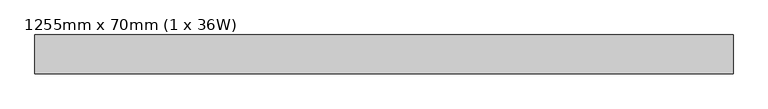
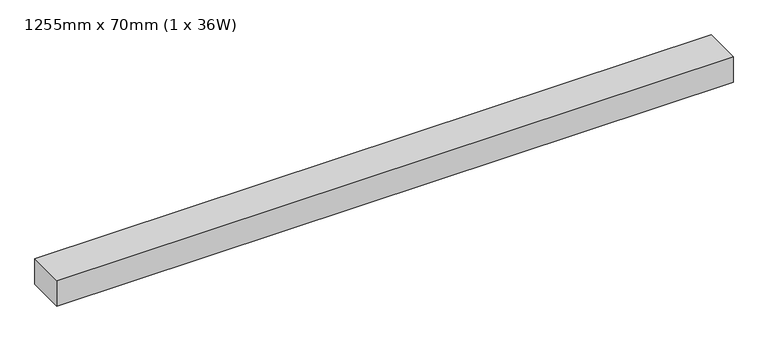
"""IFC4 building model written with IfcOpenShell, lengths in millimetres: light fixture geometry, Lighting_Ceiling-Mounted_Zeppelin-Rental-GmbH : 1255mm x 70mm (1 x 36W)."""

from ifc_helpers import new_model, si_unit, origin, origin_with_axes, place, context, project, spatial, polyline, outline, extrude, source, transform, mapped, element, save


def light_fixture_1255mm_x_70mm_1_x_36w_a4a57317(model_context):
    return source(origin(), model_context, "Body", "SweptSolid", [
        extrude(outline(polyline([(627.5, 35.0), (627.5, -35.0), (-627.5, -35.0), (-627.5, 35.0), (627.5, 35.0)])), origin_with_axes(), (0.0, 0.0, 1.0), 50.0),
    ])


if __name__ == "__main__":
    model = new_model("IFC4")
    model_context = context("Model", 3, world=origin())
    ifc_project = project(units=[si_unit("LENGTHUNIT", "METRE", prefix="MILLI")], contexts=[model_context])
    site = spatial("IfcSite", under=ifc_project)
    building = spatial("IfcBuilding", under=site)
    placement = place(None, origin())
    light_fixture_1255mm_x_70mm_1_x_36w_shape = light_fixture_1255mm_x_70mm_1_x_36w_a4a57317(model_context)
    element("IfcLightFixture", 1, ObjectType="Lighting_Ceiling-Mounted_Zeppelin-Rental-GmbH : 1255mm x 70mm (1 x 36W)", at=placement, inside=building, context=model_context, shape_type="MappedRepresentation", body=[
        mapped(light_fixture_1255mm_x_70mm_1_x_36w_shape, transform((0.0, 0.0, 0.0), x_axis=(1.0, 0.0, 0.0), y_axis=(0.0, 1.0, 0.0), z_axis=(0.0, 0.0, 1.0))),
    ])
    save(model, "model.ifc")
